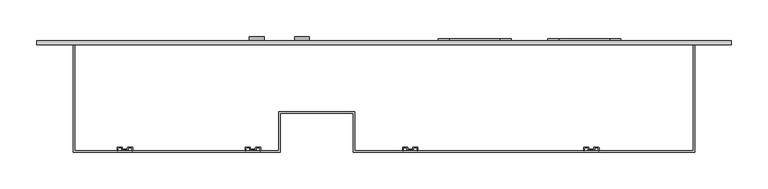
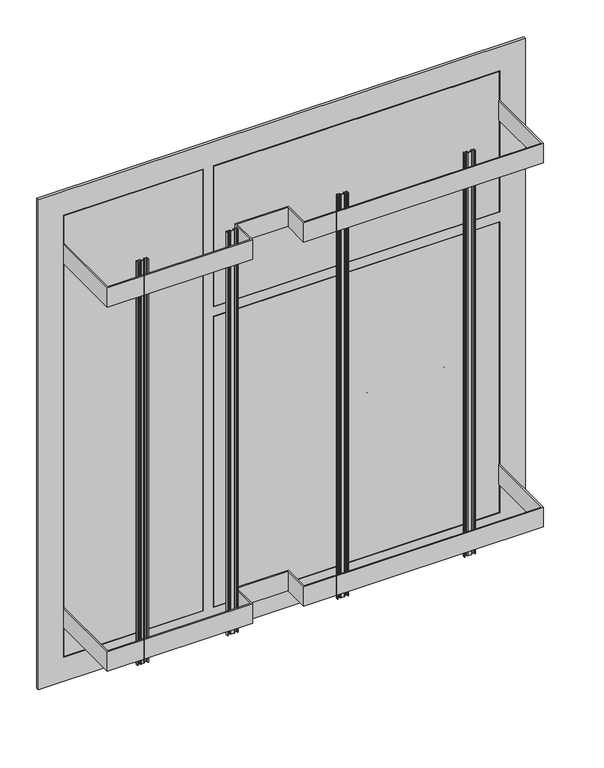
"""IFC4 building model written with IfcOpenShell, lengths in millimetres: proxy geometry, ЩЭ : ЩЭ_4 квартиры."""

from ifc_helpers import new_model, si_unit, point, frame, frame_2d, origin, place, context, project, spatial, polyline, circle_curve, trimmed, segment, composite_curve, outline, extrude, source, transform, mapped, element, save
from ifc_brep_helpers import plane_surface, cylinder_surface, revolved_surface, advanced_brep


def electrical_equipment_90699a79(model_context):
    return source(origin(), model_context, "Body", "SolidModel", [
        extrude(outline(composite_curve([segment(trimmed(circle_curve(frame_2d((373.0, 89.0)), 15.0), [point((388.0, 89.0))], [point((373.0, 74.0))], False, "CARTESIAN"), True, "CONTINUOUS"), segment(polyline([(373.0, 74.0), (338.0, 74.0)]), True, "CONTINUOUS"), segment(trimmed(circle_curve(frame_2d((338.0, 89.0)), 15.0), [point((338.0, 74.0))], [point((323.0, 89.0))], False, "CARTESIAN"), True, "CONTINUOUS"), segment(polyline([(323.0, 89.0), (323.0, 159.0)]), True, "CONTINUOUS"), segment(trimmed(circle_curve(frame_2d((338.0, 159.0)), 15.0), [point((323.0, 159.0))], [point((338.0, 174.0))], False, "CARTESIAN"), True, "CONTINUOUS"), segment(polyline([(338.0, 174.0), (373.0, 174.0)]), True, "CONTINUOUS"), segment(trimmed(circle_curve(frame_2d((373.0, 159.0)), 15.0), [point((373.0, 174.0))], [point((388.0, 159.0))], False, "CARTESIAN"), True, "CONTINUOUS"), segment(polyline([(388.0, 159.0), (388.0, 89.0)]), True, "CONTINUOUS")], self_intersect=False)), frame((0.0, 5.0, 0.0), z_axis=(0.0, 1.0, 0.0), x_axis=(0.0, 0.0, 1.0)), (0.0, 0.0, 1.0), 3.0),
        extrude(outline(composite_curve([segment(trimmed(circle_curve(frame_2d((373.0, 239.0)), 15.0), [point((388.0, 239.0))], [point((373.0, 224.0))], False, "CARTESIAN"), True, "CONTINUOUS"), segment(polyline([(373.0, 224.0), (338.0, 224.0)]), True, "CONTINUOUS"), segment(trimmed(circle_curve(frame_2d((338.0, 239.0)), 15.0), [point((338.0, 224.0))], [point((323.0, 239.0))], False, "CARTESIAN"), True, "CONTINUOUS"), segment(polyline([(323.0, 239.0), (323.0, 309.0)]), True, "CONTINUOUS"), segment(trimmed(circle_curve(frame_2d((338.0, 309.0)), 15.0), [point((323.0, 309.0))], [point((338.0, 324.0))], False, "CARTESIAN"), True, "CONTINUOUS"), segment(polyline([(338.0, 324.0), (373.0, 324.0)]), True, "CONTINUOUS"), segment(trimmed(circle_curve(frame_2d((373.0, 309.0)), 15.0), [point((373.0, 324.0))], [point((388.0, 309.0))], False, "CARTESIAN"), True, "CONTINUOUS"), segment(polyline([(388.0, 309.0), (388.0, 239.0)]), True, "CONTINUOUS")], self_intersect=False)), frame((0.0, 5.0, 0.0), z_axis=(0.0, 1.0, 0.0), x_axis=(0.0, 0.0, 1.0)), (0.0, 0.0, 1.0), 3.0),
        extrude(outline(composite_curve([segment(trimmed(circle_curve(frame_2d((498.0, 89.0)), 15.0), [point((513.0, 89.0))], [point((498.0, 74.0))], False, "CARTESIAN"), True, "CONTINUOUS"), segment(polyline([(498.0, 74.0), (463.0, 74.0)]), True, "CONTINUOUS"), segment(trimmed(circle_curve(frame_2d((463.0, 89.0)), 15.0), [point((463.0, 74.0))], [point((448.0, 89.0))], False, "CARTESIAN"), True, "CONTINUOUS"), segment(polyline([(448.0, 89.0), (448.0, 159.0)]), True, "CONTINUOUS"), segment(trimmed(circle_curve(frame_2d((463.0, 159.0)), 15.0), [point((448.0, 159.0))], [point((463.0, 174.0))], False, "CARTESIAN"), True, "CONTINUOUS"), segment(polyline([(463.0, 174.0), (498.0, 174.0)]), True, "CONTINUOUS"), segment(trimmed(circle_curve(frame_2d((498.0, 159.0)), 15.0), [point((498.0, 174.0))], [point((513.0, 159.0))], False, "CARTESIAN"), True, "CONTINUOUS"), segment(polyline([(513.0, 159.0), (513.0, 89.0)]), True, "CONTINUOUS")], self_intersect=False)), frame((0.0, 5.0, 0.0), z_axis=(0.0, 1.0, 0.0), x_axis=(0.0, 0.0, 1.0)), (0.0, 0.0, 1.0), 3.0),
        extrude(outline(composite_curve([segment(trimmed(circle_curve(frame_2d((498.0, 239.0)), 15.0), [point((513.0, 239.0))], [point((498.0, 224.0))], False, "CARTESIAN"), True, "CONTINUOUS"), segment(polyline([(498.0, 224.0), (463.0, 224.0)]), True, "CONTINUOUS"), segment(trimmed(circle_curve(frame_2d((463.0, 239.0)), 15.0), [point((463.0, 224.0))], [point((448.0, 239.0))], False, "CARTESIAN"), True, "CONTINUOUS"), segment(polyline([(448.0, 239.0), (448.0, 309.0)]), True, "CONTINUOUS"), segment(trimmed(circle_curve(frame_2d((463.0, 309.0)), 15.0), [point((448.0, 309.0))], [point((463.0, 324.0))], False, "CARTESIAN"), True, "CONTINUOUS"), segment(polyline([(463.0, 324.0), (498.0, 324.0)]), True, "CONTINUOUS"), segment(trimmed(circle_curve(frame_2d((498.0, 309.0)), 15.0), [point((498.0, 324.0))], [point((513.0, 309.0))], False, "CARTESIAN"), True, "CONTINUOUS"), segment(polyline([(513.0, 309.0), (513.0, 239.0)]), True, "CONTINUOUS")], self_intersect=False)), frame((0.0, 5.0, 0.0), z_axis=(0.0, 1.0, 0.0), x_axis=(0.0, 0.0, 1.0)), (0.0, 0.0, 1.0), 3.0),
        extrude(outline(composite_curve([segment(trimmed(circle_curve(frame_2d((26.3020158, -141.0)), 1.0), [point((25.3020158, -141.0))], [point((26.3020158, -140.0))], False, "CARTESIAN"), True, "CONTINUOUS"), segment(polyline([(26.3020158, -140.0), (31.3020158, -140.0)]), True, "CONTINUOUS"), segment(trimmed(circle_curve(frame_2d((31.3020158, -141.0)), 1.0), [point((31.3020158, -140.0))], [point((32.3020158, -141.0))], False, "CARTESIAN"), True, "CONTINUOUS"), segment(polyline([(32.3020158, -141.0), (32.3020158, -142.0)]), True, "CONTINUOUS"), segment(trimmed(circle_curve(frame_2d((33.3020158, -142.0)), 1.0), [point((32.3020158, -142.0))], [point((33.3020158, -143.0))], True, "CARTESIAN"), True, "CONTINUOUS"), segment(polyline([(33.3020158, -143.0), (38.3020158, -143.0)]), True, "CONTINUOUS"), segment(trimmed(circle_curve(frame_2d((38.3020158, -142.0)), 1.0), [point((38.3020158, -143.0))], [point((39.3020158, -142.0))], True, "CARTESIAN"), True, "CONTINUOUS"), segment(polyline([(39.3020158, -142.0), (39.3020158, -141.0)]), True, "CONTINUOUS"), segment(trimmed(circle_curve(frame_2d((40.3020158, -141.0)), 1.0), [point((39.3020158, -141.0))], [point((40.3020158, -140.0))], False, "CARTESIAN"), True, "CONTINUOUS"), segment(polyline([(40.3020158, -140.0), (45.3020158, -140.0)]), True, "CONTINUOUS"), segment(trimmed(circle_curve(frame_2d((45.3020158, -141.0)), 1.0), [point((45.3020158, -140.0))], [point((46.3020158, -141.0))], False, "CARTESIAN"), True, "CONTINUOUS"), segment(polyline([(46.3020158, -141.0), (46.3020158, -145.0), (45.3020158, -145.0), (45.3020158, -142.0)]), True, "CONTINUOUS"), segment(trimmed(circle_curve(frame_2d((44.3020158, -142.0)), 1.0), [point((45.3020158, -142.0))], [point((44.3020158, -141.0))], True, "CARTESIAN"), True, "CONTINUOUS"), segment(polyline([(44.3020158, -141.0), (41.3020158, -141.0)]), True, "CONTINUOUS"), segment(trimmed(circle_curve(frame_2d((41.3020158, -142.0)), 1.0), [point((41.3020158, -141.0))], [point((40.3020158, -142.0))], True, "CARTESIAN"), True, "CONTINUOUS"), segment(polyline([(40.3020158, -142.0), (40.3020158, -143.0)]), True, "CONTINUOUS"), segment(trimmed(circle_curve(frame_2d((39.3020158, -143.0)), 1.0), [point((40.3020158, -143.0))], [point((39.3020158, -144.0))], False, "CARTESIAN"), True, "CONTINUOUS"), segment(polyline([(39.3020158, -144.0), (32.3020158, -144.0)]), True, "CONTINUOUS"), segment(trimmed(circle_curve(frame_2d((32.3020158, -143.0)), 1.0), [point((32.3020158, -144.0))], [point((31.3020158, -143.0))], False, "CARTESIAN"), True, "CONTINUOUS"), segment(polyline([(31.3020158, -143.0), (31.3020158, -142.0)]), True, "CONTINUOUS"), segment(trimmed(circle_curve(frame_2d((30.3020158, -142.0)), 1.0), [point((31.3020158, -142.0))], [point((30.3020158, -141.0))], True, "CARTESIAN"), True, "CONTINUOUS"), segment(polyline([(30.3020158, -141.0), (27.3020158, -141.0)]), True, "CONTINUOUS"), segment(trimmed(circle_curve(frame_2d((27.3020158, -142.0)), 1.0), [point((27.3020158, -141.0))], [point((26.3020158, -142.0))], True, "CARTESIAN"), True, "CONTINUOUS"), segment(polyline([(26.3020158, -142.0), (26.3020158, -145.0), (25.3020158, -145.0), (25.3020158, -141.0)]), True, "CONTINUOUS")], self_intersect=False)), frame((0.0, 0.0, 99.2671013), z_axis=(0.0, 0.0, 1.0), x_axis=(1.0, 0.0, 0.0)), (0.0, 0.0, 1.0), 830.6584154),
        extrude(outline(composite_curve([segment(trimmed(circle_curve(frame_2d((274.0, -141.0)), 1.0), [point((273.0, -141.0))], [point((274.0, -140.0))], False, "CARTESIAN"), True, "CONTINUOUS"), segment(polyline([(274.0, -140.0), (279.0, -140.0)]), True, "CONTINUOUS"), segment(trimmed(circle_curve(frame_2d((279.0, -141.0)), 1.0), [point((279.0, -140.0))], [point((280.0, -141.0))], False, "CARTESIAN"), True, "CONTINUOUS"), segment(polyline([(280.0, -141.0), (280.0, -142.0)]), True, "CONTINUOUS"), segment(trimmed(circle_curve(frame_2d((281.0, -142.0)), 1.0), [point((280.0, -142.0))], [point((281.0, -143.0))], True, "CARTESIAN"), True, "CONTINUOUS"), segment(polyline([(281.0, -143.0), (286.0, -143.0)]), True, "CONTINUOUS"), segment(trimmed(circle_curve(frame_2d((286.0, -142.0)), 1.0), [point((286.0, -143.0))], [point((287.0, -142.0))], True, "CARTESIAN"), True, "CONTINUOUS"), segment(polyline([(287.0, -142.0), (287.0, -141.0)]), True, "CONTINUOUS"), segment(trimmed(circle_curve(frame_2d((288.0, -141.0)), 1.0), [point((287.0, -141.0))], [point((288.0, -140.0))], False, "CARTESIAN"), True, "CONTINUOUS"), segment(polyline([(288.0, -140.0), (293.0, -140.0)]), True, "CONTINUOUS"), segment(trimmed(circle_curve(frame_2d((293.0, -141.0)), 1.0), [point((293.0, -140.0))], [point((294.0, -141.0))], False, "CARTESIAN"), True, "CONTINUOUS"), segment(polyline([(294.0, -141.0), (294.0, -145.0), (293.0, -145.0), (293.0, -142.0)]), True, "CONTINUOUS"), segment(trimmed(circle_curve(frame_2d((292.0, -142.0)), 1.0), [point((293.0, -142.0))], [point((292.0, -141.0))], True, "CARTESIAN"), True, "CONTINUOUS"), segment(polyline([(292.0, -141.0), (289.0, -141.0)]), True, "CONTINUOUS"), segment(trimmed(circle_curve(frame_2d((289.0, -142.0)), 1.0), [point((289.0, -141.0))], [point((288.0, -142.0))], True, "CARTESIAN"), True, "CONTINUOUS"), segment(polyline([(288.0, -142.0), (288.0, -143.0)]), True, "CONTINUOUS"), segment(trimmed(circle_curve(frame_2d((287.0, -143.0)), 1.0), [point((288.0, -143.0))], [point((287.0, -144.0))], False, "CARTESIAN"), True, "CONTINUOUS"), segment(polyline([(287.0, -144.0), (280.0, -144.0)]), True, "CONTINUOUS"), segment(trimmed(circle_curve(frame_2d((280.0, -143.0)), 1.0), [point((280.0, -144.0))], [point((279.0, -143.0))], False, "CARTESIAN"), True, "CONTINUOUS"), segment(polyline([(279.0, -143.0), (279.0, -142.0)]), True, "CONTINUOUS"), segment(trimmed(circle_curve(frame_2d((278.0, -142.0)), 1.0), [point((279.0, -142.0))], [point((278.0, -141.0))], True, "CARTESIAN"), True, "CONTINUOUS"), segment(polyline([(278.0, -141.0), (275.0, -141.0)]), True, "CONTINUOUS"), segment(trimmed(circle_curve(frame_2d((275.0, -142.0)), 1.0), [point((275.0, -141.0))], [point((274.0, -142.0))], True, "CARTESIAN"), True, "CONTINUOUS"), segment(polyline([(274.0, -142.0), (274.0, -145.0), (273.0, -145.0), (273.0, -141.0)]), True, "CONTINUOUS")], self_intersect=False)), frame((0.0, 0.0, 99.2671013), z_axis=(0.0, 0.0, 1.0), x_axis=(1.0, 0.0, 0.0)), (0.0, 0.0, 1.0), 830.6584154),
        extrude(outline(composite_curve([segment(trimmed(circle_curve(frame_2d((-188.6979842, -141.0)), 1.0), [point((-189.6979842, -141.0))], [point((-188.6979842, -140.0))], False, "CARTESIAN"), True, "CONTINUOUS"), segment(polyline([(-188.6979842, -140.0), (-183.6979842, -140.0)]), True, "CONTINUOUS"), segment(trimmed(circle_curve(frame_2d((-183.6979842, -141.0)), 1.0), [point((-183.6979842, -140.0))], [point((-182.6979842, -141.0))], False, "CARTESIAN"), True, "CONTINUOUS"), segment(polyline([(-182.6979842, -141.0), (-182.6979842, -142.0)]), True, "CONTINUOUS"), segment(trimmed(circle_curve(frame_2d((-181.6979842, -142.0)), 1.0), [point((-182.6979842, -142.0))], [point((-181.6979842, -143.0))], True, "CARTESIAN"), True, "CONTINUOUS"), segment(polyline([(-181.6979842, -143.0), (-176.6979842, -143.0)]), True, "CONTINUOUS"), segment(trimmed(circle_curve(frame_2d((-176.6979842, -142.0)), 1.0), [point((-176.6979842, -143.0))], [point((-175.6979842, -142.0))], True, "CARTESIAN"), True, "CONTINUOUS"), segment(polyline([(-175.6979842, -142.0), (-175.6979842, -141.0)]), True, "CONTINUOUS"), segment(trimmed(circle_curve(frame_2d((-174.6979842, -141.0)), 1.0), [point((-175.6979842, -141.0))], [point((-174.6979842, -140.0))], False, "CARTESIAN"), True, "CONTINUOUS"), segment(polyline([(-174.6979842, -140.0), (-169.6979842, -140.0)]), True, "CONTINUOUS"), segment(trimmed(circle_curve(frame_2d((-169.6979842, -141.0)), 1.0), [point((-169.6979842, -140.0))], [point((-168.6979842, -141.0))], False, "CARTESIAN"), True, "CONTINUOUS"), segment(polyline([(-168.6979842, -141.0), (-168.6979842, -145.0), (-169.6979842, -145.0), (-169.6979842, -142.0)]), True, "CONTINUOUS"), segment(trimmed(circle_curve(frame_2d((-170.6979842, -142.0)), 1.0), [point((-169.6979842, -142.0))], [point((-170.6979842, -141.0))], True, "CARTESIAN"), True, "CONTINUOUS"), segment(polyline([(-170.6979842, -141.0), (-173.6979842, -141.0)]), True, "CONTINUOUS"), segment(trimmed(circle_curve(frame_2d((-173.6979842, -142.0)), 1.0), [point((-173.6979842, -141.0))], [point((-174.6979842, -142.0))], True, "CARTESIAN"), True, "CONTINUOUS"), segment(polyline([(-174.6979842, -142.0), (-174.6979842, -143.0)]), True, "CONTINUOUS"), segment(trimmed(circle_curve(frame_2d((-175.6979842, -143.0)), 1.0), [point((-174.6979842, -143.0))], [point((-175.6979842, -144.0))], False, "CARTESIAN"), True, "CONTINUOUS"), segment(polyline([(-175.6979842, -144.0), (-182.6979842, -144.0)]), True, "CONTINUOUS"), segment(trimmed(circle_curve(frame_2d((-182.6979842, -143.0)), 1.0), [point((-182.6979842, -144.0))], [point((-183.6979842, -143.0))], False, "CARTESIAN"), True, "CONTINUOUS"), segment(polyline([(-183.6979842, -143.0), (-183.6979842, -142.0)]), True, "CONTINUOUS"), segment(trimmed(circle_curve(frame_2d((-184.6979842, -142.0)), 1.0), [point((-183.6979842, -142.0))], [point((-184.6979842, -141.0))], True, "CARTESIAN"), True, "CONTINUOUS"), segment(polyline([(-184.6979842, -141.0), (-187.6979842, -141.0)]), True, "CONTINUOUS"), segment(trimmed(circle_curve(frame_2d((-187.6979842, -142.0)), 1.0), [point((-187.6979842, -141.0))], [point((-188.6979842, -142.0))], True, "CARTESIAN"), True, "CONTINUOUS"), segment(polyline([(-188.6979842, -142.0), (-188.6979842, -145.0), (-189.6979842, -145.0), (-189.6979842, -141.0)]), True, "CONTINUOUS")], self_intersect=False)), frame((0.0, 0.0, 99.2671013), z_axis=(0.0, 0.0, 1.0), x_axis=(1.0, 0.0, 0.0)), (0.0, 0.0, 1.0), 830.6584154),
        extrude(outline(composite_curve([segment(trimmed(circle_curve(frame_2d((-363.6979842, -141.0)), 1.0), [point((-364.6979842, -141.0))], [point((-363.6979842, -140.0))], False, "CARTESIAN"), True, "CONTINUOUS"), segment(polyline([(-363.6979842, -140.0), (-358.6979842, -140.0)]), True, "CONTINUOUS"), segment(trimmed(circle_curve(frame_2d((-358.6979842, -141.0)), 1.0), [point((-358.6979842, -140.0))], [point((-357.6979842, -141.0))], False, "CARTESIAN"), True, "CONTINUOUS"), segment(polyline([(-357.6979842, -141.0), (-357.6979842, -142.0)]), True, "CONTINUOUS"), segment(trimmed(circle_curve(frame_2d((-356.6979842, -142.0)), 1.0), [point((-357.6979842, -142.0))], [point((-356.6979842, -143.0))], True, "CARTESIAN"), True, "CONTINUOUS"), segment(polyline([(-356.6979842, -143.0), (-351.6979842, -143.0)]), True, "CONTINUOUS"), segment(trimmed(circle_curve(frame_2d((-351.6979842, -142.0)), 1.0), [point((-351.6979842, -143.0))], [point((-350.6979842, -142.0))], True, "CARTESIAN"), True, "CONTINUOUS"), segment(polyline([(-350.6979842, -142.0), (-350.6979842, -141.0)]), True, "CONTINUOUS"), segment(trimmed(circle_curve(frame_2d((-349.6979842, -141.0)), 1.0), [point((-350.6979842, -141.0))], [point((-349.6979842, -140.0))], False, "CARTESIAN"), True, "CONTINUOUS"), segment(polyline([(-349.6979842, -140.0), (-344.6979842, -140.0)]), True, "CONTINUOUS"), segment(trimmed(circle_curve(frame_2d((-344.6979842, -141.0)), 1.0), [point((-344.6979842, -140.0))], [point((-343.6979842, -141.0))], False, "CARTESIAN"), True, "CONTINUOUS"), segment(polyline([(-343.6979842, -141.0), (-343.6979842, -145.0), (-344.6979842, -145.0), (-344.6979842, -142.0)]), True, "CONTINUOUS"), segment(trimmed(circle_curve(frame_2d((-345.6979842, -142.0)), 1.0), [point((-344.6979842, -142.0))], [point((-345.6979842, -141.0))], True, "CARTESIAN"), True, "CONTINUOUS"), segment(polyline([(-345.6979842, -141.0), (-348.6979842, -141.0)]), True, "CONTINUOUS"), segment(trimmed(circle_curve(frame_2d((-348.6979842, -142.0)), 1.0), [point((-348.6979842, -141.0))], [point((-349.6979842, -142.0))], True, "CARTESIAN"), True, "CONTINUOUS"), segment(polyline([(-349.6979842, -142.0), (-349.6979842, -143.0)]), True, "CONTINUOUS"), segment(trimmed(circle_curve(frame_2d((-350.6979842, -143.0)), 1.0), [point((-349.6979842, -143.0))], [point((-350.6979842, -144.0))], False, "CARTESIAN"), True, "CONTINUOUS"), segment(polyline([(-350.6979842, -144.0), (-357.6979842, -144.0)]), True, "CONTINUOUS"), segment(trimmed(circle_curve(frame_2d((-357.6979842, -143.0)), 1.0), [point((-357.6979842, -144.0))], [point((-358.6979842, -143.0))], False, "CARTESIAN"), True, "CONTINUOUS"), segment(polyline([(-358.6979842, -143.0), (-358.6979842, -142.0)]), True, "CONTINUOUS"), segment(trimmed(circle_curve(frame_2d((-359.6979842, -142.0)), 1.0), [point((-358.6979842, -142.0))], [point((-359.6979842, -141.0))], True, "CARTESIAN"), True, "CONTINUOUS"), segment(polyline([(-359.6979842, -141.0), (-362.6979842, -141.0)]), True, "CONTINUOUS"), segment(trimmed(circle_curve(frame_2d((-362.6979842, -142.0)), 1.0), [point((-362.6979842, -141.0))], [point((-363.6979842, -142.0))], True, "CARTESIAN"), True, "CONTINUOUS"), segment(polyline([(-363.6979842, -142.0), (-363.6979842, -145.0), (-364.6979842, -145.0), (-364.6979842, -141.0)]), True, "CONTINUOUS")], self_intersect=False)), frame((0.0, 0.0, 99.2671013), z_axis=(0.0, 0.0, 1.0), x_axis=(1.0, 0.0, 0.0)), (0.0, 0.0, 1.0), 830.6584154),
        extrude(outline(polyline([(424.0, 0.0), (-132.0, 0.0), (-132.0, 5.0), (424.0, 5.0), (424.0, 0.0)])), frame((0.0, 0.0, 670.5), z_axis=(0.0, 0.0, 1.0), x_axis=(1.0, 0.0, 0.0)), (0.0, 0.0, 1.0), 288.5),
        extrude(outline(polyline([(-425.0, -147.0), (-425.0, 0.0), (-423.0, 0.0), (-423.0, -145.0), (-144.0, -145.0), (-144.0, -92.0), (-40.0, -92.0), (-40.0, -145.0), (423.0, -145.0), (423.0, 0.0), (425.0, 0.0), (425.0, -147.0), (-42.0, -147.0), (-42.0, -94.0), (-142.0, -94.0), (-142.0, -147.0), (-425.0, -147.0)])), frame((0.0, 0.0, 860.0), z_axis=(0.0, 0.0, 1.0), x_axis=(1.0, 0.0, 0.0)), (0.0, 0.0, 1.0), 40.0),
        extrude(outline(polyline([(-425.0, -147.0), (-425.0, 0.0), (-423.0, 0.0), (-423.0, -145.0), (-144.0, -145.0), (-144.0, -92.0), (-40.0, -92.0), (-40.0, -145.0), (423.0, -145.0), (423.0, 0.0), (425.0, 0.0), (425.0, -147.0), (-42.0, -147.0), (-42.0, -94.0), (-142.0, -94.0), (-142.0, -147.0), (-425.0, -147.0)])), frame((0.0, 0.0, 110.0), z_axis=(0.0, 0.0, 1.0), x_axis=(1.0, 0.0, 0.0)), (0.0, 0.0, 1.0), 40.0),
        advanced_brep(
        [(-184.0, 5.0, 505.0), (-164.0, 5.0, 505.0), (-174.0, 5.0, 505.0), (-184.0, 11.0, 505.0), (-164.0, 11.0, 505.0), (-177.1377642, 11.0, 505.0), (-170.8622358, 11.0, 505.0), (-177.1377642, 9.9822294, 505.0), (-170.8622358, 9.9822294, 505.0), (-174.0, 9.9822294, 505.0)],
        [
            (0, 1, circle_curve(frame((-174.0, 5.0, 505.0), z_axis=(0.0, -1.0, 0.0), x_axis=(1.0, 0.0, 0.0)), 10.0)),
            (1, 2),
            (2, 0),
            (1, 0, circle_curve(frame((-174.0, 5.0, 505.0), z_axis=(0.0, -1.0, 0.0), x_axis=(1.0, 0.0, 0.0)), 10.0)),
            (3, 4, circle_curve(frame((-174.0, 11.0, 505.0), z_axis=(0.0, -1.0, 0.0), x_axis=(1.0, 0.0, 0.0)), 10.0)),
            (4, 1),
            (0, 3),
            (4, 3, circle_curve(frame((-174.0, 11.0, 505.0), z_axis=(0.0, -1.0, 0.0), x_axis=(1.0, 0.0, 0.0)), 10.0)),
            (5, 6, circle_curve(frame((-174.0, 11.0, 505.0), z_axis=(0.0, -1.0, 0.0), x_axis=(1.0, 0.0, 0.0)), 3.1377642)),
            (6, 4),
            (3, 5),
            (6, 5, circle_curve(frame((-174.0, 11.0, 505.0), z_axis=(0.0, -1.0, 0.0), x_axis=(1.0, 0.0, 0.0)), 3.1377642)),
            (7, 8, circle_curve(frame((-174.0, 9.9822294, 505.0), z_axis=(0.0, -1.0, 0.0), x_axis=(1.0, 0.0, 0.0)), 3.1377642)),
            (8, 6),
            (5, 7),
            (8, 7, circle_curve(frame((-174.0, 9.9822294, 505.0), z_axis=(0.0, -1.0, 0.0), x_axis=(1.0, 0.0, 0.0)), 3.1377642)),
            (9, 8),
            (7, 9),
        ],
        [
            plane_surface(frame((-174.0, 5.0, 505.0), z_axis=(0.0, -1.0, 0.0), x_axis=(1.0, 0.0, 0.0))),
            cylinder_surface(frame((-174.0, 18.1348851, 505.0), z_axis=(0.0, 1.0, 0.0), x_axis=(1.0, 0.0, 0.0)), 10.0),
            plane_surface(frame((-174.0, 11.0, 505.0), z_axis=(0.0, 1.0, 0.0), x_axis=(1.0, 0.0, 0.0))),
            revolved_surface(polyline([(-170.8622358, 11.0, 505.0), (-170.8622358, 9.9822294, 505.0)]), (-174.0, 18.1348851, 505.0), (0.0, 1.0, 0.0)),
            plane_surface(frame((-174.0, 9.9822294, 505.0), z_axis=(0.0, 1.0, 0.0), x_axis=(1.0, 0.0, 0.0))),
        ],
        [
            (0, [[1, 2, 3]]),
            (0, [[4, -3, -2]]),
            (1, [[5, 6, -1, 7]]),
            (1, [[8, -7, -4, -6]]),
            (2, [[9, 10, -5, 11]]),
            (2, [[12, -11, -8, -10]]),
            (3, [[13, 14, -9, 15]]),
            (3, [[16, -15, -12, -14]]),
            (4, [[17, -13, 18]]),
            (4, [[-18, -16, -17]]),
        ],
    ),
        advanced_brep(
        [(-122.0, 5.0, 340.3115373), (-102.0, 5.0, 340.3115373), (-112.0, 5.0, 340.3115373), (-122.0, 11.0, 340.3115373), (-102.0, 11.0, 340.3115373), (-115.1377642, 11.0, 340.3115373), (-108.8622358, 11.0, 340.3115373), (-115.1377642, 9.9822294, 340.3115373), (-108.8622358, 9.9822294, 340.3115373), (-112.0, 9.9822294, 340.3115373)],
        [
            (0, 1, circle_curve(frame((-112.0, 5.0, 340.3115373), z_axis=(0.0, -1.0, 0.0), x_axis=(1.0, 0.0, 0.0)), 10.0)),
            (1, 2),
            (2, 0),
            (1, 0, circle_curve(frame((-112.0, 5.0, 340.3115373), z_axis=(0.0, -1.0, 0.0), x_axis=(1.0, 0.0, 0.0)), 10.0)),
            (3, 4, circle_curve(frame((-112.0, 11.0, 340.3115373), z_axis=(0.0, -1.0, 0.0), x_axis=(1.0, 0.0, 0.0)), 10.0)),
            (4, 1),
            (0, 3),
            (4, 3, circle_curve(frame((-112.0, 11.0, 340.3115373), z_axis=(0.0, -1.0, 0.0), x_axis=(1.0, 0.0, 0.0)), 10.0)),
            (5, 6, circle_curve(frame((-112.0, 11.0, 340.3115373), z_axis=(0.0, -1.0, 0.0), x_axis=(1.0, 0.0, 0.0)), 3.1377642)),
            (6, 4),
            (3, 5),
            (6, 5, circle_curve(frame((-112.0, 11.0, 340.3115373), z_axis=(0.0, -1.0, 0.0), x_axis=(1.0, 0.0, 0.0)), 3.1377642)),
            (7, 8, circle_curve(frame((-112.0, 9.9822294, 340.3115373), z_axis=(0.0, -1.0, 0.0), x_axis=(1.0, 0.0, 0.0)), 3.1377642)),
            (8, 6),
            (5, 7),
            (8, 7, circle_curve(frame((-112.0, 9.9822294, 340.3115373), z_axis=(0.0, -1.0, 0.0), x_axis=(1.0, 0.0, 0.0)), 3.1377642)),
            (9, 8),
            (7, 9),
        ],
        [
            plane_surface(frame((-112.0, 5.0, 340.3115373), z_axis=(0.0, -1.0, 0.0), x_axis=(1.0, 0.0, 0.0))),
            cylinder_surface(frame((-112.0, 18.1348851, 340.3115373), z_axis=(0.0, 1.0, 0.0), x_axis=(1.0, 0.0, 0.0)), 10.0),
            plane_surface(frame((-112.0, 11.0, 340.3115373), z_axis=(0.0, 1.0, 0.0), x_axis=(1.0, 0.0, 0.0))),
            revolved_surface(polyline([(-108.8622358, 11.0, 340.3115373), (-108.8622358, 9.9822294, 340.3115373)]), (-112.0, 18.1348851, 340.3115373), (0.0, 1.0, 0.0)),
            plane_surface(frame((-112.0, 9.9822294, 340.3115373), z_axis=(0.0, 1.0, 0.0), x_axis=(1.0, 0.0, 0.0))),
        ],
        [
            (0, [[1, 2, 3]]),
            (0, [[4, -3, -2]]),
            (1, [[5, 6, -1, 7]]),
            (1, [[8, -7, -4, -6]]),
            (2, [[9, 10, -5, 11]]),
            (2, [[12, -11, -8, -10]]),
            (3, [[13, 14, -9, 15]]),
            (3, [[16, -15, -12, -14]]),
            (4, [[17, -13, 18]]),
            (4, [[-18, -16, -17]]),
        ],
    ),
        advanced_brep(
        [(-122.0, 5.0, 780.3115373), (-102.0, 5.0, 780.3115373), (-112.0, 5.0, 780.3115373), (-122.0, 11.0, 780.3115373), (-102.0, 11.0, 780.3115373), (-115.1377642, 11.0, 780.3115373), (-108.8622358, 11.0, 780.3115373), (-115.1377642, 9.9822294, 780.3115373), (-108.8622358, 9.9822294, 780.3115373), (-112.0, 9.9822294, 780.3115373)],
        [
            (0, 1, circle_curve(frame((-112.0, 5.0, 780.3115373), z_axis=(0.0, -1.0, 0.0), x_axis=(1.0, 0.0, 0.0)), 10.0)),
            (1, 2),
            (2, 0),
            (1, 0, circle_curve(frame((-112.0, 5.0, 780.3115373), z_axis=(0.0, -1.0, 0.0), x_axis=(1.0, 0.0, 0.0)), 10.0)),
            (3, 4, circle_curve(frame((-112.0, 11.0, 780.3115373), z_axis=(0.0, -1.0, 0.0), x_axis=(1.0, 0.0, 0.0)), 10.0)),
            (4, 1),
            (0, 3),
            (4, 3, circle_curve(frame((-112.0, 11.0, 780.3115373), z_axis=(0.0, -1.0, 0.0), x_axis=(1.0, 0.0, 0.0)), 10.0)),
            (5, 6, circle_curve(frame((-112.0, 11.0, 780.3115373), z_axis=(0.0, -1.0, 0.0), x_axis=(1.0, 0.0, 0.0)), 3.1377642)),
            (6, 4),
            (3, 5),
            (6, 5, circle_curve(frame((-112.0, 11.0, 780.3115373), z_axis=(0.0, -1.0, 0.0), x_axis=(1.0, 0.0, 0.0)), 3.1377642)),
            (7, 8, circle_curve(frame((-112.0, 9.9822294, 780.3115373), z_axis=(0.0, -1.0, 0.0), x_axis=(1.0, 0.0, 0.0)), 3.1377642)),
            (8, 6),
            (5, 7),
            (8, 7, circle_curve(frame((-112.0, 9.9822294, 780.3115373), z_axis=(0.0, -1.0, 0.0), x_axis=(1.0, 0.0, 0.0)), 3.1377642)),
            (9, 8),
            (7, 9),
        ],
        [
            plane_surface(frame((-112.0, 5.0, 780.3115373), z_axis=(0.0, -1.0, 0.0), x_axis=(1.0, 0.0, 0.0))),
            cylinder_surface(frame((-112.0, 18.1348851, 780.3115373), z_axis=(0.0, 1.0, 0.0), x_axis=(1.0, 0.0, 0.0)), 10.0),
            plane_surface(frame((-112.0, 11.0, 780.3115373), z_axis=(0.0, 1.0, 0.0), x_axis=(1.0, 0.0, 0.0))),
            revolved_surface(polyline([(-108.8622358, 11.0, 780.3115373), (-108.8622358, 9.9822294, 780.3115373)]), (-112.0, 18.1348851, 780.3115373), (0.0, 1.0, 0.0)),
            plane_surface(frame((-112.0, 9.9822294, 780.3115373), z_axis=(0.0, 1.0, 0.0), x_axis=(1.0, 0.0, 0.0))),
        ],
        [
            (0, [[1, 2, 3]]),
            (0, [[4, -3, -2]]),
            (1, [[5, 6, -1, 7]]),
            (1, [[8, -7, -4, -6]]),
            (2, [[9, 10, -5, 11]]),
            (2, [[12, -11, -8, -10]]),
            (3, [[13, 14, -9, 15]]),
            (3, [[16, -15, -12, -14]]),
            (4, [[17, -13, 18]]),
            (4, [[-18, -16, -17]]),
        ],
    ),
        extrude(outline(polyline([(-154.0, 0.0), (-424.0, 0.0), (-424.0, 5.0), (-154.0, 5.0), (-154.0, 0.0)])), frame((0.0, 0.0, 51.0), z_axis=(0.0, 0.0, 1.0), x_axis=(1.0, 0.0, 0.0)), (0.0, 0.0, 1.0), 908.0),
        extrude(outline(polyline([(424.0, 0.0), (-132.0, 0.0), (-132.0, 5.0), (424.0, 5.0), (424.0, 0.0)])), frame((0.0, 0.0, 51.0), z_axis=(0.0, 0.0, 1.0), x_axis=(1.0, 0.0, 0.0)), (0.0, 0.0, 1.0), 597.5),
        extrude(outline(polyline([(1010.0, -475.0), (0.0, -475.0), (0.0, 475.0), (1010.0, 475.0), (1010.0, -475.0)]), holes=[polyline([(960.0, -133.0), (960.0, 425.0), (669.5, 425.0), (669.5, -133.0), (960.0, -133.0)]), polyline([(649.5, 425.0), (50.0, 425.0), (50.0, -133.0), (649.5, -133.0), (649.5, 425.0)]), polyline([(50.0, -153.0), (50.0, -425.0), (960.0, -425.0), (960.0, -153.0), (50.0, -153.0)])]), frame((0.0, 0.0, 0.0), z_axis=(0.0, 1.0, 0.0), x_axis=(0.0, 0.0, 1.0)), (0.0, 0.0, 1.0), 5.0),
    ])


if __name__ == "__main__":
    model = new_model("IFC4")
    model_context = context("Model", 3, world=origin())
    ifc_project = project(units=[si_unit("LENGTHUNIT", "METRE", prefix="MILLI")], contexts=[model_context])
    site = spatial("IfcSite", under=ifc_project)
    building = spatial("IfcBuilding", under=site)
    placement = place(None, origin())
    electrical_equipment_shape = electrical_equipment_90699a79(model_context)
    element("IfcBuildingElementProxy", 1, Name="ЩЭ : ЩЭ_4 квартиры", ObjectType="ЩЭ : ЩЭ_4 квартиры", at=placement, inside=building, context=model_context, shape_type="MappedRepresentation", body=[
        mapped(electrical_equipment_shape, transform((0.0, 0.0, 0.0), x_axis=(1.0, 0.0, 0.0), y_axis=(0.0, 1.0, 0.0), z_axis=(0.0, 0.0, 1.0))),
    ])
    save(model, "model.ifc")
